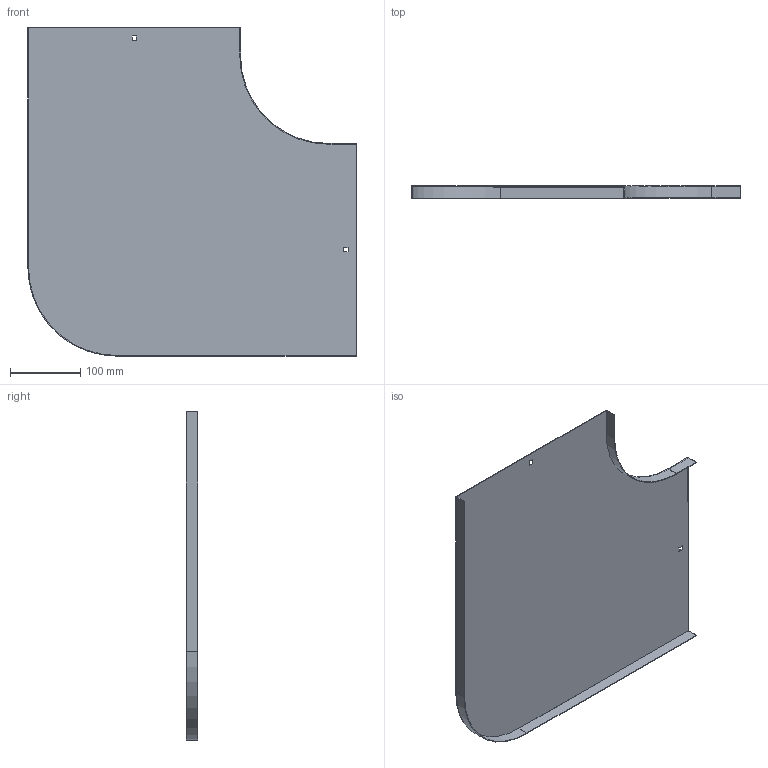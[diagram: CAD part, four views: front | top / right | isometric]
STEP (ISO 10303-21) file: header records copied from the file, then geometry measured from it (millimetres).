
FILE_DESCRIPTION (( 'STEP AP214' ), '1' );
FILE_NAME ('OP9_300.step', '2025-07-16T09:15:09', ( '' ), ( '' ), 'SwSTEP 2.0', 'SolidWorks 2023', '' );
FILE_SCHEMA (( 'AUTOMOTIVE_DESIGN' ));
Length unit declared in the file: millimetre
Products named in the file (1): OP9_300
Bounding box: 466 x 17 x 466 mm (x, y, z)
Volume: 208511.9 mm3; surface area: 418896.5 mm2
Topology: 1 solids, 1 shells, 26 faces, 72 edges, 48 vertices
Faces by surface type: plane 22, cylinder 4
Entity records: 855 total; most frequent: CARTESIAN_POINT 147, ORIENTED_EDGE 144, DIRECTION 134, EDGE_CURVE 72, VECTOR 64, LINE 64, VERTEX_POINT 48, AXIS2_PLACEMENT_3D 35
